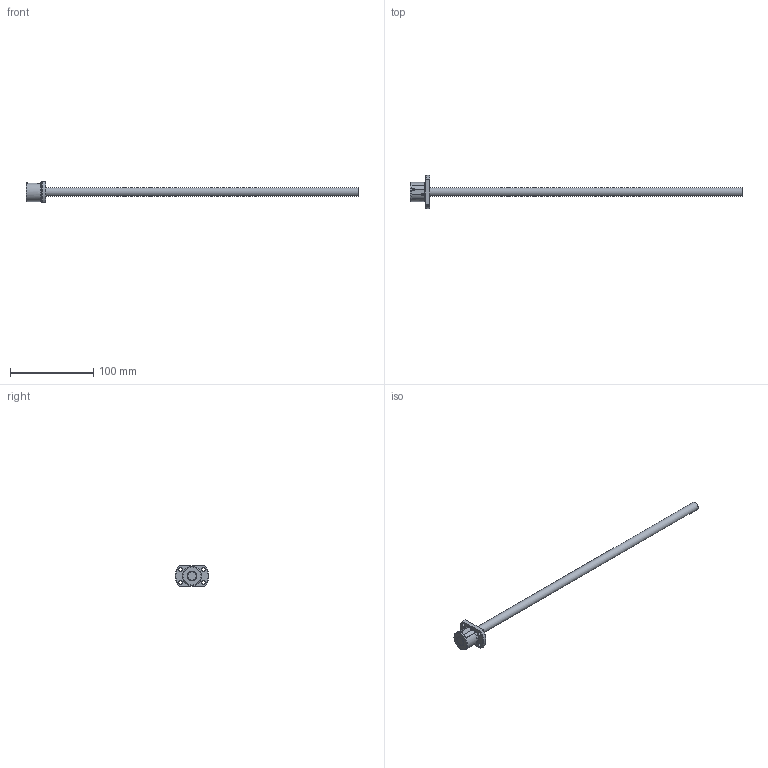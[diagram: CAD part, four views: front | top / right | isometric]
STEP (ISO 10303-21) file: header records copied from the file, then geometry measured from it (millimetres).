
FILE_DESCRIPTION( ( 'STEP AP203' ), '1' );
FILE_NAME( 'e:/temp/worker_93/temp/exporttempdir_3516_630_cwbPR/format_0/SR1002-400R400C7(0).stp', '2021-10-19T03:45:32', ( 'License CC BY-ND 4.0' ), ( 'CADENAS' ), ' ', 'PARTsolutions', ' ' );
FILE_SCHEMA( ( 'CONFIG_CONTROL_DESIGN' ) );
Length unit declared in the file: millimetre
Products named in the file (3): SR1002-400R400C7(0); _SR1002-400R400C7(0)_shaft; _SR1002-400R400C7C7_nut
Assembly tree (2 placements, depth 2):
  SR1002-400R400C7(0)
    _SR1002-400R400C7(0)_shaft
    _SR1002-400R400C7C7_nut
Bounding box: 400 x 40 x 25 mm (x, y, z)
Volume: 41433.4 mm3; surface area: 17315.4 mm2
Topology: 2 solids, 2 shells, 58 faces, 149 edges, 98 vertices
Faces by surface type: plane 25, cylinder 24, cone 9
Full cylindrical faces by diameter (mm): 1.07 x2, 4.5 x4, 10 x2, 12 x2, 22.5 x1, 23 x1
Entity records: 1804 total; most frequent: CARTESIAN_POINT 359, DIRECTION 286, ORIENTED_EDGE 250, EDGE_CURVE 125, AXIS2_PLACEMENT_3D 118, VERTEX_POINT 91, EDGE_LOOP 88, FACE_OUTER_BOUND 70
